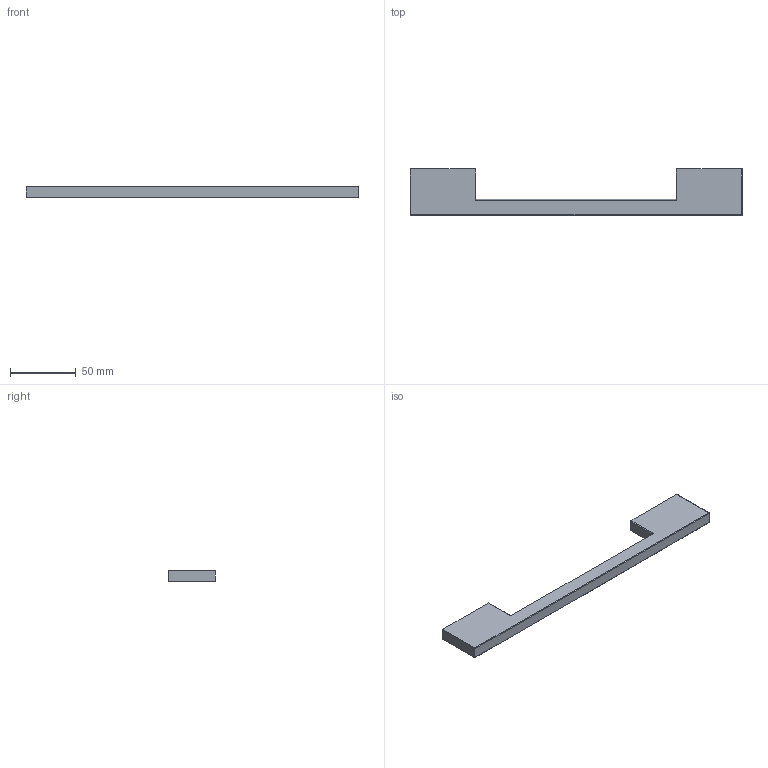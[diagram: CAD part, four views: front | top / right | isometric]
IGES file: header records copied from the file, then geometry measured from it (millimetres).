
Start section: Data from Parasolid IGES Translator 15.0.47, Copyright(c) 2006 Siemens P LM Software. All Rights Reserved.
Global section: file name: 9995586.igs; native system:  By UGS Corp.; preprocessor: XPlus GENERIC/IGES 3.0; author: Noname; organization: Noname; date: 20140122.183121; units: millimetre
Bounding box: 252 x 35.01 x 9.01 mm (x, y, z)
Surface area: 16066.6 mm2 (no closed solid volume)
Topology: 0 solids, 0 shells, 24 faces, 112 edges, 110 vertices
Faces by surface type: revolution 13, extrusion 11
